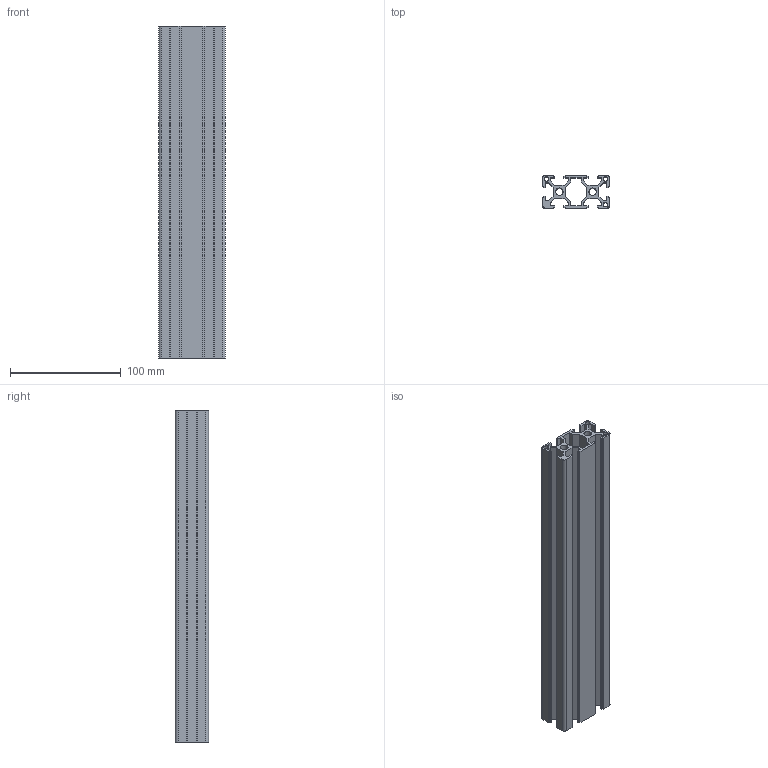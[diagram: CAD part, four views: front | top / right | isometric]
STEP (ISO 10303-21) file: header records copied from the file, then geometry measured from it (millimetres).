
FILE_DESCRIPTION (( 'STEP AP203' ), '1' );
FILE_NAME ('14-CE-3060-8.STEP', '2015-07-07T02:57:42', ( '' ), ( '' ), 'SwSTEP 2.0', 'SolidWorks 2013', '' );
FILE_SCHEMA (( 'CONFIG_CONTROL_DESIGN' ));
Length unit declared in the file: millimetre
Products named in the file (1): 14-CE-3060-8
Bounding box: 60 x 30 x 300 mm (x, y, z)
Volume: 180231.9 mm3; surface area: 156750.4 mm2
Topology: 1 solids, 1 shells, 116 faces, 342 edges, 228 vertices
Faces by surface type: plane 102, cylinder 14
Entity records: 3915 total; most frequent: CARTESIAN_POINT 687, ORIENTED_EDGE 684, DIRECTION 604, EDGE_CURVE 342, VECTOR 314, LINE 314, VERTEX_POINT 228, AXIS2_PLACEMENT_3D 145
